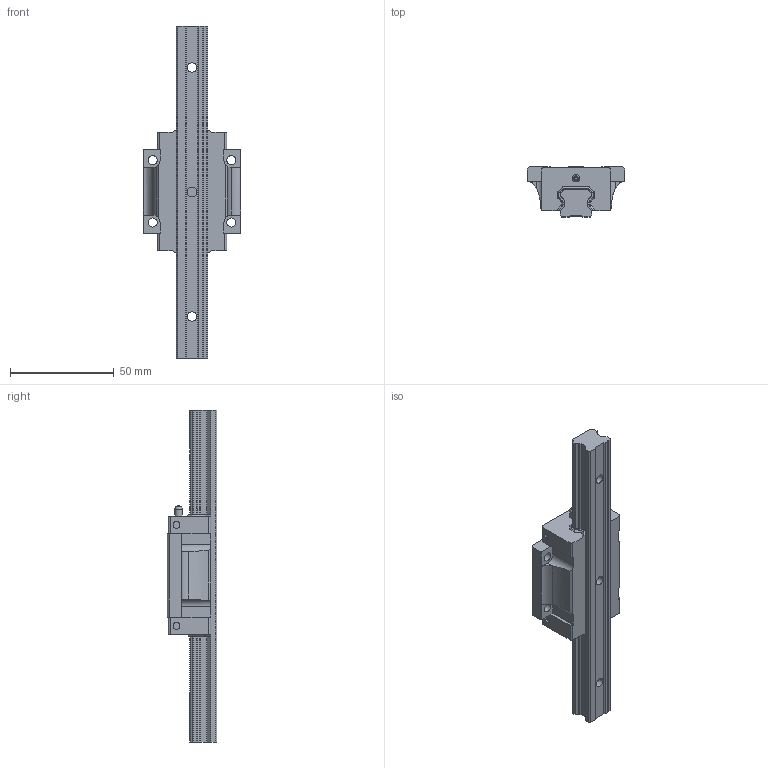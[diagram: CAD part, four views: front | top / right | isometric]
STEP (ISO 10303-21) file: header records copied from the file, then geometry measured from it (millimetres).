
FILE_DESCRIPTION((''),'2;1');
FILE_NAME('D:\製品 (図面)\カタログ用3D\変換ファイル\OZAK_3D-CAD(STEP形式)\Part2.-Linear Guides_ﾘﾆｱｶﾞｲﾄﾞ\07_Eco Guides_ｴｺｶﾞｲﾄﾞ\EGH-F\EGH15F.stp','2010-12-22T11:13:44',('Tsuchiya'),(''),'Autodesk Inventor 10','Autodesk Inventor 10','');
FILE_SCHEMA(('AUTOMOTIVE_DESIGN { 1 0 10303 214 1 1 1 1 }'));
Length unit declared in the file: millimetre
Products named in the file (3): EGH15F; EGH15F1; EGH15F2
Assembly tree (2 placements, depth 2):
  EGH15F
    EGH15F1
    EGH15F2
Bounding box: 47 x 24 x 160 mm (x, y, z)
Volume: 61988.8 mm3; surface area: 20516.9 mm2
Topology: 2 solids, 3 shells, 200 faces, 544 edges, 360 vertices
Faces by surface type: plane 115, cylinder 55, cone 24, bspline 4, sphere 2
Full cylindrical faces by diameter (mm): 3 x1, 3.3 x6, 3.5 x1, 4.4 x4, 4.5 x3, 7.5 x3
Entity records: 6407 total; most frequent: CARTESIAN_POINT 1257, DIRECTION 1051, ORIENTED_EDGE 1040, EDGE_CURVE 520, VERTEX_POINT 360, AXIS2_PLACEMENT_3D 358, VECTOR 335, LINE 335
